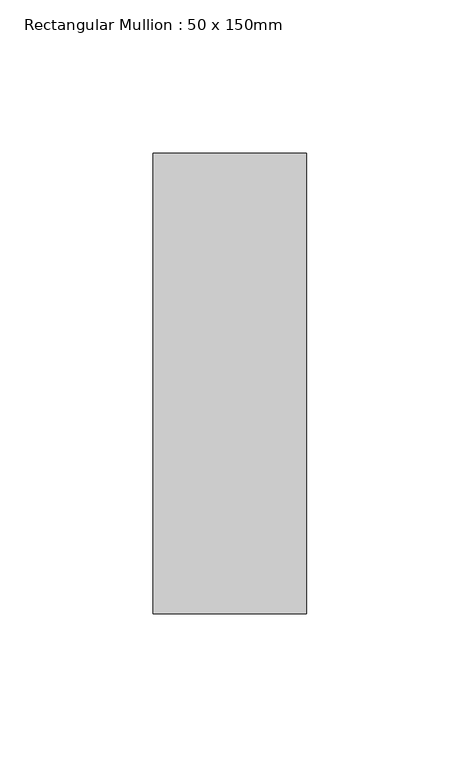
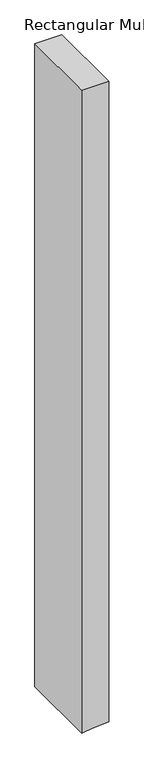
"""IFC4 building model written with IfcOpenShell, lengths in millimetres: member geometry, Rectangular Mullion : 50 x 150mm."""

from ifc_helpers import new_model, si_unit, frame, origin, place, context, project, spatial, polyline, outline, extrude, source, transform, mapped, element, save


def rectangular_mullion_50_x_150mm_e177594f(model_context):
    return source(origin(), model_context, "Body", "SweptSolid", [
        extrude(outline(polyline([(0.0, 25.0), (0.0, -25.0), (-1259.4604663, -25.0), (-1257.4496992, -5.0022633), (-1254.4329796, 25.0), (0.0, 25.0)])), frame((0.0, -75.0, 0.0), z_axis=(0.0, 1.0, 0.0), x_axis=(0.0, 0.0, 1.0)), (0.0, 0.0, 1.0), 150.0),
    ])


if __name__ == "__main__":
    model = new_model("IFC4")
    model_context = context("Model", 3, world=origin())
    ifc_project = project(units=[si_unit("LENGTHUNIT", "METRE", prefix="MILLI")], contexts=[model_context])
    site = spatial("IfcSite", under=ifc_project)
    building = spatial("IfcBuilding", under=site)
    placement = place(None, origin())
    rectangular_mullion_50_x_150mm_shape = rectangular_mullion_50_x_150mm_e177594f(model_context)
    element("IfcMember", 1, ObjectType="Rectangular Mullion : 50 x 150mm", at=placement, inside=building, context=model_context, shape_type="MappedRepresentation", body=[
        mapped(rectangular_mullion_50_x_150mm_shape, transform((0.0, 0.0, 0.0), x_axis=(1.0, 0.0, 0.0), y_axis=(0.0, 1.0, 0.0), z_axis=(0.0, 0.0, 1.0))),
    ])
    save(model, "model.ifc")
